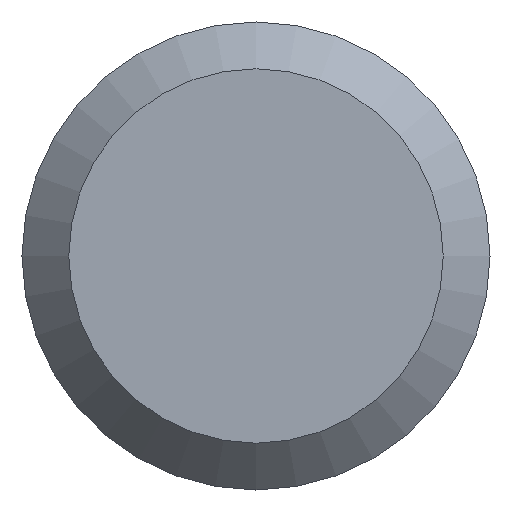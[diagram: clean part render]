
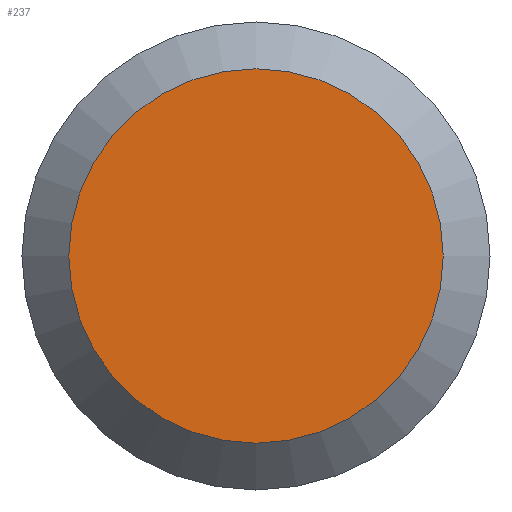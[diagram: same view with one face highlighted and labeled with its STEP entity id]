
A CAD part, left-side view. The second image highlights one B-rep face of the part: STEP entity #237.
In plain terms, the highlighted planar face has unit normal (-1, 0, 0).
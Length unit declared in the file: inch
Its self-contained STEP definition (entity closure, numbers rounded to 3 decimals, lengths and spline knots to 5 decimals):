
#32 = DIRECTION ( 'NONE',  ( 0., 0., -1. ) ) ;
#37 = ORIENTED_EDGE ( 'NONE', *, *, #221, .T. ) ;
#38 = EDGE_LOOP ( 'NONE', ( #37 ) ) ;
#60 = PLANE ( 'NONE',  #86 ) ;
#76 = DIRECTION ( 'NONE',  ( 1., 0., 0. ) ) ;
#86 = AXIS2_PLACEMENT_3D ( 'NONE', #214, #76, #32 ) ;
#104 = DIRECTION ( 'NONE',  ( 0., 0., -1. ) ) ;
#123 = CARTESIAN_POINT ( 'NONE',  ( 0., 0., -0.0608 ) ) ;
#124 = CARTESIAN_POINT ( 'NONE',  ( 0., 0., 0. ) ) ;
#136 = AXIS2_PLACEMENT_3D ( 'NONE', #124, #231, #104 ) ;
#177 = CIRCLE ( 'NONE', #136, 0.0608 ) ;
#193 = VERTEX_POINT ( 'NONE', #123 ) ;
#214 = CARTESIAN_POINT ( 'NONE',  ( 0., 0.076, 0. ) ) ;
#221 = EDGE_CURVE ( 'NONE', #193, #193, #177, .T. ) ;
#231 = DIRECTION ( 'NONE',  ( -1., 0., 0. ) ) ;
#235 = FACE_OUTER_BOUND ( 'NONE', #38, .T. ) ;
#237 = ADVANCED_FACE ( 'NONE', ( #235 ), #60, .F. ) ;
